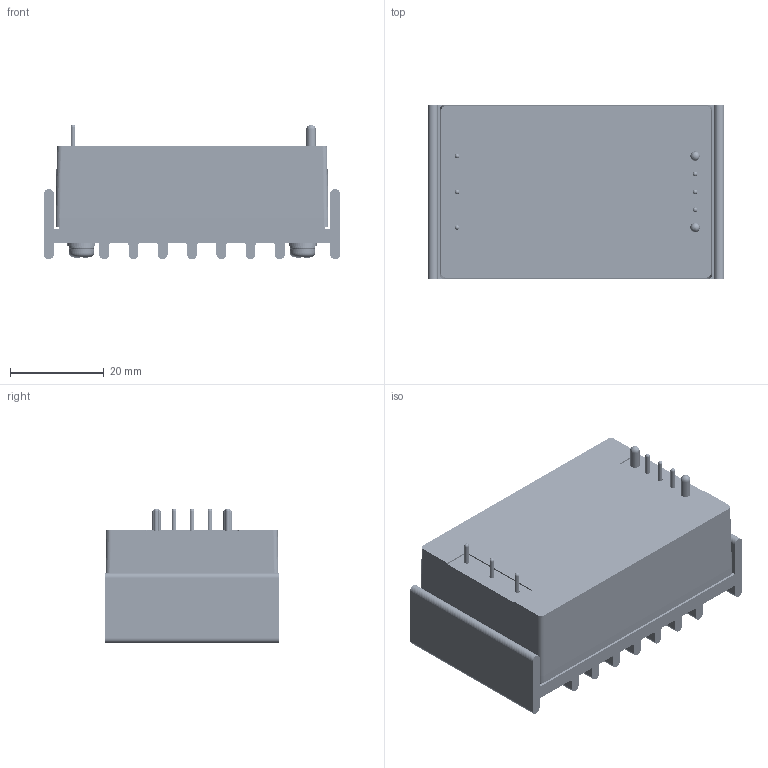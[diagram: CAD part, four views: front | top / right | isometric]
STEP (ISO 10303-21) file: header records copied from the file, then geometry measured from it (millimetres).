
FILE_DESCRIPTION(/* description */ (''),/* implementation_level */ '2;1');
FILE_NAME(/* name */ 'C:\Users\QIU\Desktop\MRZI100-I150+HS5.stp',/* time_stamp */ '2021-02-09T13:13:05+08:00',/* author */ ('QIU'),/* organization */ (''),/* preprocessor_version */ 'ST-DEVELOPER v15.2',/* originating_system */ 'Autodesk Inventor 2014',/* authorisation */ '');
FILE_SCHEMA (('AUTOMOTIVE_DESIGN { 1 0 10303 214 3 1 1 }'));
Products named in the file (70): MTQZI100S24主板(MTQZI100S-24Vo R-2); IC6; IC(PIN -16); T4; C40; 散熱片; T3; T5 BOBBIN(071-BB12)(0版)-\X2\8108885D8B8A58D3
56685E955EA7\X0\; T5  CORE; 橙-圈數; 紅-圈數; 紅-2B; 紅-2A; 橙-1A(上線); 紅-1B(下線); MTQZI100+I150脈衝變壓器組合-\X2\6D779DD781736B3E
\X0\(單組); 電感 ER CORE(\X2\6A196E964E0A96505C3A5BF8
\X0\); MTQZI100-I150電感成型圖(110S24線圈)-\X2\7DDA
5F91\X0\0.85mm; 084-IMTQZ-6(1版)-增加長寬; 電感 I CORE(標準上限尺寸); MTQZI100-110S24電感線圈固定膠帶; 電感絕緣盒(081-CMTQZ-5)(0版); MTQZI100-110S24電感外層固定膠帶(\X2\637762D37528
\X0\11.7); 電感點膠圖; 電感外圈平整膠帶; MTQZI100-110S24電感尺寸外觀圖(\X2\542B
9EDE81A0\X0\); MTQZI100-110S24主板半成品組合(1
08.12.24); T1 ER CORE(上限值); T1 I CORE(上限值); MTQZI100+I150 T1固定膠帶(\X2\8A554F30
\X0\T1絕緣盒用); MTQZI100+I150變壓器固定盒(081-CMT
QZ-6)(0版); 絕緣盒固定膠帶-\X2\694A526F7406
6B3E\X0\; Q100-2S R2; Q100-8P; Q100-2S-4SD R2; MTQZI100-110S05線圈板組合(108.8.1); 變壓器一二次側PIN(085-PIN-99)(2
版); 085-PIN-42; MTQZI100-110S05線圈板正面接腳; MTQZI100-110S24單組變壓器總組合 ...
Bounding box: 63.2 x 37.1 x 28.7 mm (x, y, z)
Volume: 33251.8 mm3; surface area: 59076.8 mm2
Topology: 109 solids, 232 shells, 8254 faces, 18397 edges, 10201 vertices
Faces by surface type: plane 2842, cylinder 2215, torus 2162, bspline 998, sphere 23, cone 14
Full cylindrical faces by diameter (mm): 0.14 x48, 0.15 x240, 0.5 x3, 0.6 x5, 0.7 x7, 0.85 x8, 0.852 x2, 1 x19, 1.05 x6, 1.1 x1, 1.2 x21, 1.3 x1, 1.4 x5, 1.5 x25, 1.7 x4, 2 x2, 2.05 x2, 2.1 x2, 2.5 x2, 2.693 x2, 3 x2, 3.2 x2, 3.5 x8, 4 x2, 4.7 x4, 4.8 x2, 6 x2, 8.8 x2, 9.1 x3, 10.2 x1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
Entity records: 237445 total; most frequent: CARTESIAN_POINT 58569, ORIENTED_EDGE 37452, DIRECTION 35363, EDGE_CURVE 17212, AXIS2_PLACEMENT_3D 13499, VERTEX_POINT 9666, EDGE_LOOP 8576, LINE 8365
